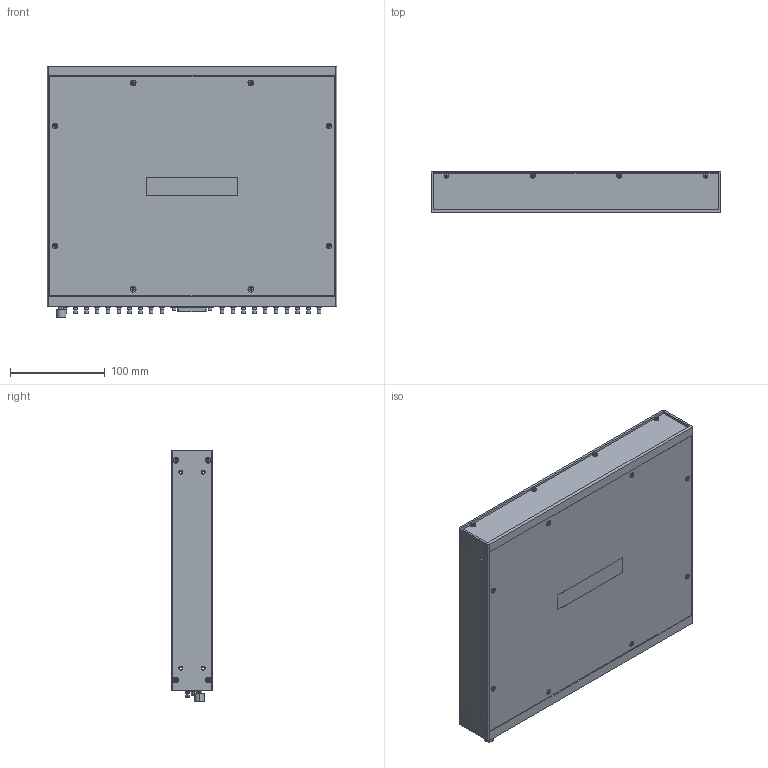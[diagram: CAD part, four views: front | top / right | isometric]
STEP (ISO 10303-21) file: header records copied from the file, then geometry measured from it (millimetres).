
FILE_DESCRIPTION((''),'2;1');
FILE_NAME('CU_SMB-2163','2007-08-16T',('lmcdanie'),(''),'PRO/ENGINEER BY PARAMETRIC TECHNOLOGY CORPORATION, 2006080','PRO/ENGINEER BY PARAMETRIC TECHNOLOGY CORPORATION, 2006080','');
FILE_SCHEMA(('CONFIG_CONTROL_DESIGN'));
Products named in the file (1): CU_SMB-2163
Bounding box: 306.32 x 43.94 x 266.42 mm (x, y, z)
Volume: 446582.3 mm3; surface area: 476992.5 mm2
Topology: 30 solids, 30 shells, 4456 faces, 11186 edges, 6776 vertices
Faces by surface type: plane 2330, cylinder 1214, bspline 528, cone 364, sphere 16, torus 4
Entity records: 156520 total; most frequent: CARTESIAN_POINT 52845, ORIENTED_EDGE 21380, DIRECTION 20648, EDGE_CURVE 10690, VERTEX_POINT 7308, AXIS2_PLACEMENT_3D 6963, VECTOR 6722, LINE 6722
